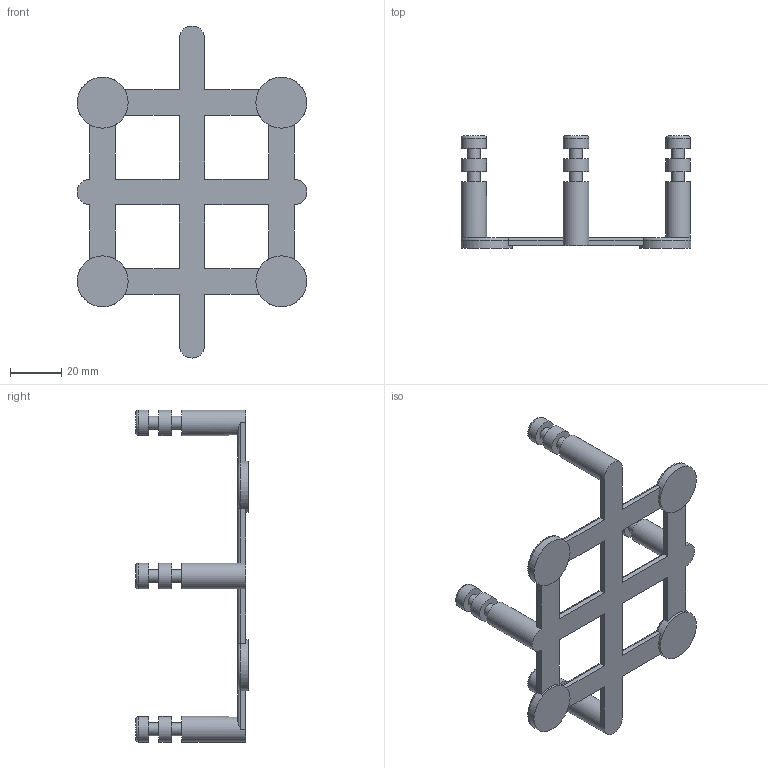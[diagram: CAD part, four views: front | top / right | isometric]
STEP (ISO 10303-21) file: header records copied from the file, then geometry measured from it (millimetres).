
FILE_DESCRIPTION(/* description */ (''),/* implementation_level */ '2;1');
FILE_NAME(/* name */ 'D:\Desktop\PillarStand.stp',/* time_stamp */ '2019-11-19T11:55:21+01:00',/* author */ ('fkhad'),/* organization */ (''),/* preprocessor_version */ 'ST-DEVELOPER v17',/* originating_system */ 'Autodesk Inventor 2019',/* authorisation */ '');
FILE_SCHEMA (('AUTOMOTIVE_DESIGN { 1 0 10303 214 3 1 1 }'));
Length unit declared in the file: millimetre
Products named in the file (1): Part1
Bounding box: 90 x 44 x 130 mm (x, y, z)
Volume: 26392.3 mm3; surface area: 17718 mm2
Topology: 1 solids, 1 shells, 119 faces, 306 edges, 202 vertices
Faces by surface type: plane 54, cylinder 53, torus 12
Full cylindrical faces by diameter (mm): 5 x8, 9.603 x3, 10 x9, 20 x4
Entity records: 3937 total; most frequent: CARTESIAN_POINT 892, DIRECTION 656, ORIENTED_EDGE 612, EDGE_CURVE 306, AXIS2_PLACEMENT_3D 254, VERTEX_POINT 202, LINE 148, VECTOR 148
